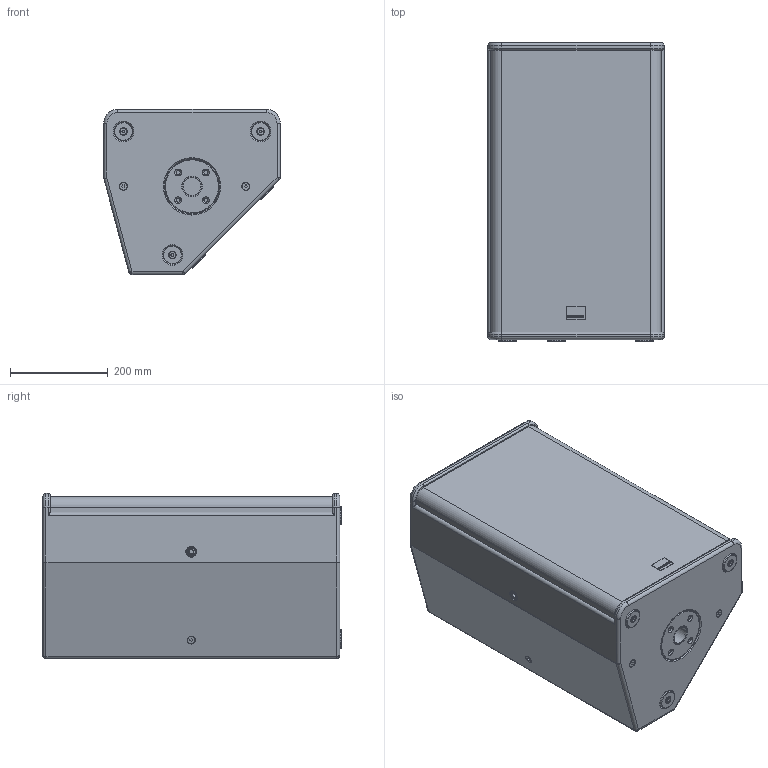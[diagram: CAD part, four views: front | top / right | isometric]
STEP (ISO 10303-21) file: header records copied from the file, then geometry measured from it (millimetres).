
FILE_DESCRIPTION (( 'STEP AP203' ), '1' );
FILE_NAME ('Seeburg_TSM12.STEP', '2012-10-17T11:36:20', ( 'Fabian' ), ( '' ), 'SwSTEP 2.0', 'SolidWorks 2009', '' );
FILE_SCHEMA (( 'CONFIG_CONTROL_DESIGN' ));
Length unit declared in the file: millimetre
Products named in the file (2): TSM12; Seeburg_TSM12
Assembly tree (1 placements, depth 2):
  Seeburg_TSM12
    TSM12
Bounding box: 360 x 609 x 337 mm (x, y, z)
Volume: 15842783.5 mm3; surface area: 1875303.6 mm2
Topology: 28 solids, 28 shells, 678 faces, 1581 edges, 989 vertices
Faces by surface type: cylinder 274, plane 217, torus 100, cone 72, sphere 13, bspline 2
Entity records: 23595 total; most frequent: CARTESIAN_POINT 7721, DIRECTION 3467, ORIENTED_EDGE 3146, EDGE_CURVE 1573, AXIS2_PLACEMENT_3D 1370, VERTEX_POINT 985, EDGE_LOOP 760, VECTOR 727
